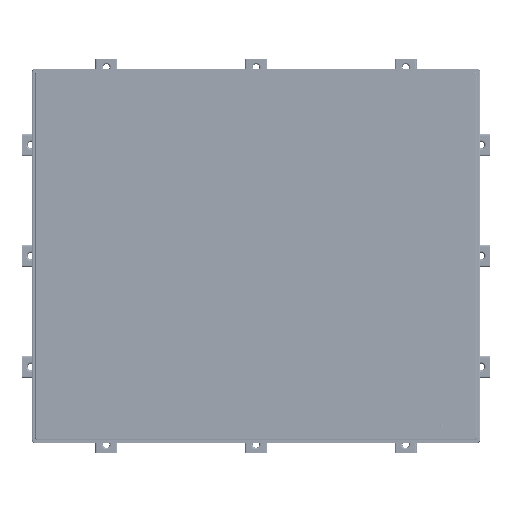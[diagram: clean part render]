
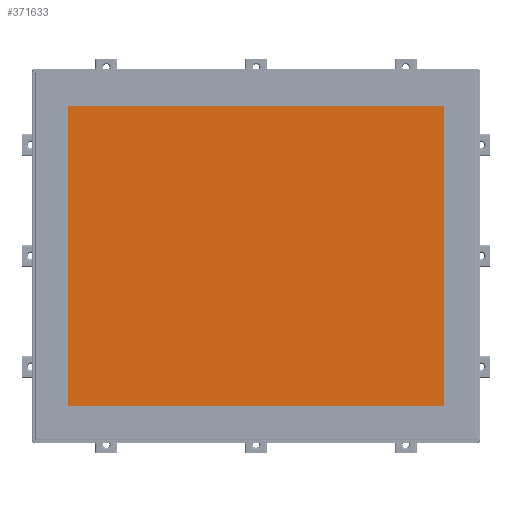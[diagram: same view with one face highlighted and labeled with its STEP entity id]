
A CAD part, top view. The second image highlights one B-rep face of the part: STEP entity #371633.
In plain terms, the highlighted planar face has unit normal (0, 0, 1).
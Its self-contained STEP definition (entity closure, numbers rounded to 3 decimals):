
#5302=DIRECTION('',(0.,1.,0.));
#5303=VECTOR('',#5302,271.);
#5304=CARTESIAN_POINT('',(169.25,-135.5,5.2));
#5305=LINE('',#5304,#5303);
#5306=DIRECTION('',(1.,0.,0.));
#5307=VECTOR('',#5306,46.75);
#5308=CARTESIAN_POINT('',(122.5,-135.5,5.2));
#5309=LINE('',#5308,#5307);
#5310=DIRECTION('',(0.,1.,0.));
#5311=VECTOR('',#5310,0.25);
#5312=CARTESIAN_POINT('',(122.5,-135.75,5.2));
#5313=LINE('',#5312,#5311);
#5314=DIRECTION('',(0.,1.,0.));
#5315=VECTOR('',#5314,0.25);
#5316=CARTESIAN_POINT('',(117.5,-135.75,5.2));
#5317=LINE('',#5316,#5315);
#5318=DIRECTION('',(1.,0.,0.));
#5319=VECTOR('',#5318,235.);
#5320=CARTESIAN_POINT('',(-117.5,-135.5,5.2));
#5321=LINE('',#5320,#5319);
#5322=DIRECTION('',(0.,1.,0.));
#5323=VECTOR('',#5322,0.25);
#5324=CARTESIAN_POINT('',(-117.5,-135.75,5.2));
#5325=LINE('',#5324,#5323);
#5326=DIRECTION('',(0.,1.,0.));
#5327=VECTOR('',#5326,0.25);
#5328=CARTESIAN_POINT('',(-122.5,-135.75,5.2));
#5329=LINE('',#5328,#5327);
#5330=DIRECTION('',(1.,0.,0.));
#5331=VECTOR('',#5330,46.75);
#5332=CARTESIAN_POINT('',(-169.25,-135.5,5.2));
#5333=LINE('',#5332,#5331);
#5334=DIRECTION('',(0.,-1.,0.));
#5335=VECTOR('',#5334,271.);
#5336=CARTESIAN_POINT('',(-169.25,135.5,5.2));
#5337=LINE('',#5336,#5335);
#5338=DIRECTION('',(-1.,0.,0.));
#5339=VECTOR('',#5338,338.5);
#5340=CARTESIAN_POINT('',(169.25,135.5,5.2));
#5341=LINE('',#5340,#5339);
#276955=DIRECTION('',(-1.,0.,0.));
#276956=VECTOR('',#276955,5.);
#276957=CARTESIAN_POINT('',(-117.5,-135.75,5.2));
#276958=LINE('',#276957,#276956);
#276963=DIRECTION('',(-1.,0.,0.));
#276964=VECTOR('',#276963,5.);
#276965=CARTESIAN_POINT('',(122.5,-135.75,5.2));
#276966=LINE('',#276965,#276964);
#350747=CARTESIAN_POINT('',(169.25,-135.5,5.2));
#350748=CARTESIAN_POINT('',(169.25,135.5,5.2));
#350749=VERTEX_POINT('',#350747);
#350750=VERTEX_POINT('',#350748);
#350751=CARTESIAN_POINT('',(-169.25,-135.5,5.2));
#350752=CARTESIAN_POINT('',(-122.5,-135.5,5.2));
#350753=VERTEX_POINT('',#350751);
#350754=VERTEX_POINT('',#350752);
#350755=CARTESIAN_POINT('',(-117.5,-135.5,5.2));
#350756=CARTESIAN_POINT('',(117.5,-135.5,5.2));
#350757=VERTEX_POINT('',#350755);
#350758=VERTEX_POINT('',#350756);
#350759=CARTESIAN_POINT('',(122.5,-135.5,5.2));
#350760=VERTEX_POINT('',#350759);
#350761=CARTESIAN_POINT('',(-169.25,135.5,5.2));
#350762=VERTEX_POINT('',#350761);
#350763=CARTESIAN_POINT('',(-122.5,-135.75,5.2));
#350764=VERTEX_POINT('',#350763);
#350765=CARTESIAN_POINT('',(-117.5,-135.75,5.2));
#350766=VERTEX_POINT('',#350765);
#350767=CARTESIAN_POINT('',(117.5,-135.75,5.2));
#350768=VERTEX_POINT('',#350767);
#350769=CARTESIAN_POINT('',(122.5,-135.75,5.2));
#350770=VERTEX_POINT('',#350769);
#371603=CARTESIAN_POINT('',(0.,0.,5.2));
#371604=DIRECTION('',(0.,0.,1.));
#371605=DIRECTION('',(1.,0.,0.));
#371606=AXIS2_PLACEMENT_3D('',#371603,#371604,#371605);
#371607=PLANE('',#371606);
#371608=ORIENTED_EDGE('',*,*,#371586,.F.);
#371610=ORIENTED_EDGE('',*,*,#371609,.F.);
#371612=ORIENTED_EDGE('',*,*,#371611,.F.);
#371614=ORIENTED_EDGE('',*,*,#371613,.T.);
#371616=ORIENTED_EDGE('',*,*,#371615,.T.);
#371618=ORIENTED_EDGE('',*,*,#371617,.F.);
#371620=ORIENTED_EDGE('',*,*,#371619,.F.);
#371622=ORIENTED_EDGE('',*,*,#371621,.T.);
#371624=ORIENTED_EDGE('',*,*,#371623,.T.);
#371626=ORIENTED_EDGE('',*,*,#371625,.F.);
#371628=ORIENTED_EDGE('',*,*,#371627,.F.);
#371630=ORIENTED_EDGE('',*,*,#371629,.F.);
#371631=EDGE_LOOP('',(#371608,#371610,#371612,#371614,#371616,#371618,#371620,
#371622,#371624,#371626,#371628,#371630));
#371632=FACE_OUTER_BOUND('',#371631,.F.);
#371633=ADVANCED_FACE('',(#371632),#371607,.T.);
#371586=EDGE_CURVE('',#350749,#350750,#5305,.T.);
#371609=EDGE_CURVE('',#350760,#350749,#5309,.T.);
#371611=EDGE_CURVE('',#350770,#350760,#5313,.T.);
#371613=EDGE_CURVE('',#350770,#350768,#276966,.T.);
#371615=EDGE_CURVE('',#350768,#350758,#5317,.T.);
#371617=EDGE_CURVE('',#350757,#350758,#5321,.T.);
#371619=EDGE_CURVE('',#350766,#350757,#5325,.T.);
#371621=EDGE_CURVE('',#350766,#350764,#276958,.T.);
#371623=EDGE_CURVE('',#350764,#350754,#5329,.T.);
#371625=EDGE_CURVE('',#350753,#350754,#5333,.T.);
#371627=EDGE_CURVE('',#350762,#350753,#5337,.T.);
#371629=EDGE_CURVE('',#350750,#350762,#5341,.T.);
